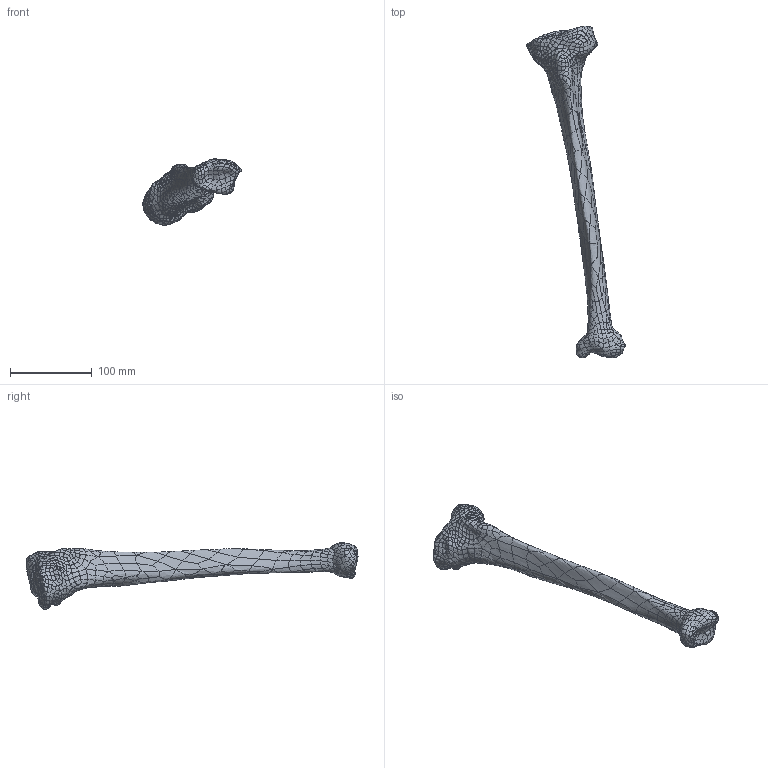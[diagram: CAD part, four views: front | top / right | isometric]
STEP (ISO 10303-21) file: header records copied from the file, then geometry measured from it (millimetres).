
FILE_DESCRIPTION (( 'STEP AP203' ), '1' );
FILE_NAME ('1126-67.STEP', '2025-06-24T19:02:44', ( '' ), ( '' ), 'SwSTEP 2.0', 'SolidWorks 2024', '' );
FILE_SCHEMA (( 'CONFIG_CONTROL_DESIGN' ));
Products named in the file (1): 1126-67
Bounding box: 120.25 x 405.82 x 81.34 mm (x, y, z)
Volume: 395967.5 mm3; surface area: 51829.2 mm2
Topology: 1 solids, 1 shells, 1305 faces, 2795 edges, 1496 vertices
Faces by surface type: bspline 1304, plane 1
Entity records: 158572 total; most frequent: CARTESIAN_POINT 140581, ORIENTED_EDGE 5590, B_SPLINE_CURVE_WITH_KNOTS 2795, EDGE_CURVE 2795, VERTEX_POINT 1496, EDGE_LOOP 1309, ADVANCED_FACE 1305, FACE_OUTER_BOUND 1305
